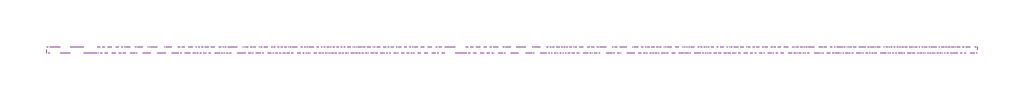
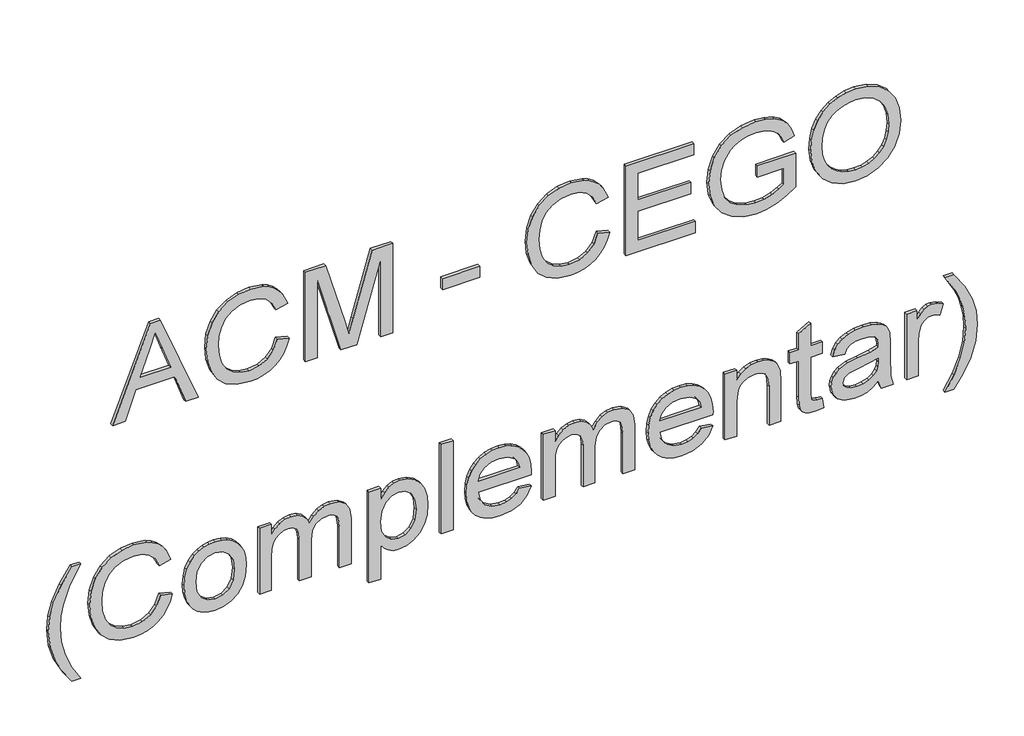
# One storey, part 5 of 12: 1 proxy.
"""IFC4 building model written with IfcOpenShell, lengths in millimetres."""

from ifc_helpers import new_model, si_unit, frame, origin, place, context, project, spatial, polyline, outline, extrude, element, save

model = new_model("IFC4")

# Units and contexts
model_context = context("Model", 3, world=origin())
ifc_project = project(units=[si_unit("LENGTHUNIT", "METRE", prefix="MILLI")], contexts=[model_context])

# Site, building, storey
site = spatial("IfcSite", under=ifc_project)
building = spatial("IfcBuilding", under=site)
storey = spatial("IfcBuildingStorey", under=building, Name="02 - Marelli - Planta Baixa - Painéis Cego", Elevation=12000.0)

# Proxy
placement = place(None, origin())
element("IfcBuildingElementProxy", 1, Name="300mm Arial", ObjectType="300mm Arial", at=placement, inside=storey, context=model_context, shape_type="SweptSolid", body=[
    extrude(outline(polyline([(17965.9244535, 22599.1298393), (17965.9244535, 22638.9346711), (18060.1022443, 22673.3684259), (18060.1022443, 22797.491811), (17965.9244535, 22831.9991422), (17965.9244535, 22871.8039741), (18267.293384, 22751.5065617), (18267.293384, 22719.4272517), (17965.9244535, 22599.1298393)]), holes=[polyline([(18097.7733606, 22687.2007889), (18178.3395176, 22716.7049249), (18229.6222677, 22735.4669067), (18171.8647944, 22756.5833332), (18097.7733606, 22783.7330244), (18097.7733606, 22687.2007889)])]), frame((0.0, 8778.3159498, 0.0), z_axis=(0.0, 1.0, 0.0), x_axis=(0.0, 0.0, 1.0)), (0.0, 0.0, 1.0), 10.0),
    extrude(outline(polyline([(18073.0516905, 23123.9502936), (18040.7884396, 23111.7642025), (18017.5750857, 23091.9813482), (18003.5587816, 23065.7789531), (17998.8866803, 23034.3342395), (18002.3171799, 23007.3592922), (18012.6086787, 22982.3525136), (18029.8347531, 22961.4936045), (18054.0689796, 22946.9622657), (18084.1617268, 22938.4366005), (18118.9633635, 22935.594712), (18147.3822477, 22937.9951421), (18174.9550032, 22945.1964321), (18199.3455795, 22958.3206223), (18218.2179258, 22978.4897527), (18230.3028494, 23005.0692268), (18234.3311572, 23037.4244483), (18230.6983225, 23065.4938445), (18219.7998184, 23088.3393164), (18200.9550632, 23106.1815932), (18173.4834752, 23119.241404), (18182.4597959, 23156.9125203), (18220.278065, 23140.2750571), (18235.6003501, 23128.4729428), (18248.5314022, 23114.3485735), (18258.7999084, 23098.1686635), (18266.1345557, 23080.1999273), (18272.0022735, 23038.8959763), (18267.4681279, 23001.040919), (18253.8656912, 22966.4967996), (18231.526057, 22937.3697427), (18200.7803193, 22915.7658725), (18162.8332915, 22902.3841649), (18118.8897871, 22897.9235957), (18077.2271512, 22901.8691301), (18038.3236302, 22913.7057333), (18005.2326447, 22933.0931145), (17981.0076153, 22959.6909827), (17966.1635768, 22994.3914519), (17961.215564, 23038.0866359), (17962.8503396, 23060.5090435), (17967.7546665, 23081.1288293), (17975.9285445, 23099.9459934), (17987.3719739, 23116.9605357), (18001.9286046, 23131.8367638), (18019.4420868, 23144.2389856), (18039.9124206, 23154.1672009), (18063.3396059, 23161.6214099), (18073.0516905, 23123.9502936)])), frame((0.0, 8778.3159498, 0.0), z_axis=(0.0, 1.0, 0.0), x_axis=(0.0, 0.0, 1.0)), (0.0, 0.0, 1.0), 10.0),
    extrude(outline(polyline([(17965.9244535, 23213.4191948), (17965.9244535, 23251.0903111), (18229.6222677, 23251.0903111), (17965.9244535, 23326.8004257), (17965.9244535, 23377.8624466), (18229.6222677, 23453.5725612), (17965.9244535, 23453.5725612), (17965.9244535, 23491.2436776), (18267.293384, 23491.2436776), (18267.293384, 23426.42287), (18058.5571399, 23365.7959172), (18010.5117514, 23352.3314362), (18054.87832, 23339.8970247), (18267.293384, 23278.2400023), (18267.293384, 23213.4191948), (17965.9244535, 23213.4191948)])), frame((0.0, 8778.3159498, 0.0), z_axis=(0.0, 1.0, 0.0), x_axis=(0.0, 0.0, 1.0)), (0.0, 0.0, 1.0), 10.0),
    extrude(outline(polyline([(23769.0681603, 8778.3159498), (23651.3459219, 8778.3159498), (23651.3459219, 8788.3159498), (23769.0681603, 8788.3159498), (23769.0681603, 8778.3159498)])), frame((0.0, 0.0, 18055.3933548), z_axis=(0.0, 0.0, 1.0), x_axis=(1.0, 0.0, 0.0)), (0.0, 0.0, 1.0), 37.6711163),
    extrude(outline(polyline([(18073.0516905, 24145.7793234), (18040.7884396, 24133.5932323), (18017.5750857, 24113.810378), (18003.5587816, 24087.6079829), (17998.8866803, 24056.1632693), (18002.3171799, 24029.1883221), (18012.6086787, 24004.1815434), (18029.8347531, 23983.3226343), (18054.0689796, 23968.7912955), (18084.1617268, 23960.2656303), (18118.9633635, 23957.4237418), (18147.3822477, 23959.8241719), (18174.9550032, 23967.0254619), (18199.3455795, 23980.1496521), (18218.2179258, 24000.3187825), (18230.3028494, 24026.8982566), (18234.3311572, 24059.2534781), (18230.6983225, 24087.3228743), (18219.7998184, 24110.1683462), (18200.9550632, 24128.010623), (18173.4834752, 24141.0704338), (18182.4597959, 24178.7415501), (18220.278065, 24162.1040869), (18235.6003501, 24150.3019727), (18248.5314022, 24136.1776033), (18258.7999084, 24119.9976933), (18266.1345557, 24102.0289571), (18272.0022735, 24060.7250061), (18267.4681279, 24022.8699488), (18253.8656912, 23988.3258294), (18231.526057, 23959.1987725), (18200.7803193, 23937.5949023), (18162.8332915, 23924.2131947), (18118.8897871, 23919.7526255), (18077.2271512, 23923.6981599), (18038.3236302, 23935.5347631), (18005.2326447, 23954.9221443), (17981.0076153, 23981.5200125), (17966.1635768, 24016.2204817), (17961.215564, 24059.9156657), (17962.8503396, 24082.3380733), (17967.7546665, 24102.9578591), (17975.9285445, 24121.7750232), (17987.3719739, 24138.7895655), (18001.9286046, 24153.6657936), (18019.4420868, 24166.0680154), (18039.9124206, 24175.9962308), (18063.3396059, 24183.4504397), (18073.0516905, 24145.7793234)])), frame((0.0, 8778.3159498, 0.0), z_axis=(0.0, 1.0, 0.0), x_axis=(0.0, 0.0, 1.0)), (0.0, 0.0, 1.0), 10.0),
    extrude(outline(polyline([(17965.9244535, 24235.2482246), (17965.9244535, 24456.5660329), (18003.5955698, 24456.5660329), (18003.5955698, 24272.9193409), (18102.4822501, 24272.9193409), (18102.4822501, 24442.4393643), (18140.1533665, 24442.4393643), (18140.1533665, 24272.9193409), (18229.6222677, 24272.9193409), (18229.6222677, 24451.8571434), (18267.293384, 24451.8571434), (18267.293384, 24235.2482246), (17965.9244535, 24235.2482246)])), frame((0.0, 8778.3159498, 0.0), z_axis=(0.0, 1.0, 0.0), x_axis=(0.0, 0.0, 1.0)), (0.0, 0.0, 1.0), 10.0),
    extrude(outline(polyline([(18083.646692, 24654.3393935), (18083.646692, 24739.0994052), (18029.2001567, 24739.0994052), (18018.55917, 24723.0505532), (18008.5619768, 24700.9500423), (18001.3055044, 24675.5018053), (17998.8866803, 24649.4097748), (18002.0964507, 24619.8596535), (18011.7257619, 24591.9833953), (18027.967752, 24568.1630361), (18051.015559, 24550.7806119), (18080.6576508, 24540.1580193), (18116.6824952, 24536.617155), (18147.4006418, 24539.560211), (18175.83792, 24548.3893789), (18204.8638094, 24567.77676), (18216.8015801, 24582.2161284), (18226.2009651, 24600.591834), (18232.2986092, 24622.8211036), (18234.3311572, 24648.8211636), (18232.445762, 24671.032039), (18226.7895763, 24691.1643812), (18217.9971966, 24708.0501648), (18206.7032194, 24720.5213644), (18191.7212251, 24729.9483406), (18171.8647944, 24737.7014536), (18181.6504555, 24772.429514), (18209.4899255, 24762.8369909), (18231.4984659, 24749.6576185), (18248.494614, 24731.8429328), (18261.2969075, 24708.3444704), (18269.325932, 24680.4406211), (18272.0022735, 24649.4097748), (18267.3853545, 24607.1401335), (18253.5345974, 24570.0944166), (18230.1832877, 24539.6797727), (18197.0647111, 24517.3033503), (18157.581776, 24503.5353666), (18115.1373908, 24498.9460387), (18072.9965082, 24503.5537607), (18035.0126922, 24517.3769267), (18003.3472495, 24540.2407927), (17980.1614867, 24571.9706148), (17965.9520447, 24610.1659629), (17961.215564, 24652.4264071), (17964.1954082, 24684.7724316), (17973.1349406, 24716.3275097), (17987.9789791, 24747.0180651), (18008.6723414, 24776.7705215), (18121.3178083, 24776.7705215), (18121.3178083, 24654.3393935), (18083.646692, 24654.3393935)])), frame((0.0, 8778.3159498, 0.0), z_axis=(0.0, 1.0, 0.0), x_axis=(0.0, 0.0, 1.0)), (0.0, 0.0, 1.0), 10.0),
    extrude(outline(polyline([(18112.6357932, 24823.8594169), (18074.0909572, 24828.1636362), (18037.6246544, 24841.0762943), (18005.9316205, 24862.3398736), (17981.7065911, 24891.6968568), (17966.3383208, 24927.3446221), (17961.215564, 24967.4805478), (17965.8508771, 25005.2896199), (17979.7568166, 25040.4315474), (18002.6758649, 25070.3955359), (18034.3505046, 25092.6707908), (18072.8125672, 25106.4939567), (18116.093884, 25111.1016787), (18158.8049836, 25106.723883), (18196.7336173, 25093.5904957), (18228.3530748, 25072.1061872), (18252.1366458, 25042.6756276), (18267.0358666, 25007.2301974), (18272.0022735, 24967.701277), (18269.3581217, 24937.4107932), (18261.4256662, 24910.0357743), (18248.204907, 24885.5762201), (18229.6958441, 24864.0321308), (18206.5146799, 24846.4565684), (18179.2776166, 24833.9025954), (18147.9846544, 24826.3702115), (18112.6357932, 24823.8594169)]), holes=[polyline([(18112.2679112, 24861.5305332), (18142.8044161, 24863.4941033), (18168.6366299, 24869.3848138), (18189.7645528, 24879.2026645), (18206.1881846, 24892.9476556), (18218.5007351, 24909.4149734), (18227.2954141, 24927.3998044), (18232.5722214, 24946.9021487), (18234.3311572, 24967.9220062), (18230.6799284, 24997.0858514), (18219.726242, 25023.2146701), (18202.1322856, 25044.8737225), (18178.5602467, 25060.628269), (18149.7366924, 25070.2299891), (18116.3881896, 25073.4305624), (18089.8501021, 25071.561262), (18066.5217851, 25065.9533609), (18046.4032385, 25056.6068589), (18029.4944623, 25043.5217562), (18016.1035577, 25027.5395828), (18006.5386258, 25009.5018687), (18000.7996667, 24989.408614), (17998.8866803, 24967.2598186), (18000.7812726, 24945.4835038), (18006.4650494, 24925.6247738), (18015.9380108, 24907.6836287), (18029.2001567, 24891.6600686), (18045.759445, 24878.4783969), (18065.1238335, 24869.062917), (18087.2933223, 24863.4136292), (18112.2679112, 24861.5305332)])]), frame((0.0, 8778.3159498, 0.0), z_axis=(0.0, 1.0, 0.0), x_axis=(0.0, 0.0, 1.0)), (0.0, 0.0, 1.0), 10.0),
    extrude(outline(polyline([(17149.3155348, 22469.4146478), (17149.3155348, 22497.667985), (17197.5540614, 22468.8260366), (17245.8109821, 22448.2246448), (17294.0862969, 22435.8638098), (17342.3800058, 22431.7435314), (17380.2534572, 22434.1163703), (17417.9429677, 22441.2348869), (17475.7740173, 22462.4248898), (17535.4444769, 22497.667985), (17535.4444769, 22469.4146478), (17484.934279, 22434.7233756), (17434.2033518, 22410.4063757), (17389.4137189, 22398.1559053), (17342.600735, 22394.0724151), (17289.2210575, 22399.5354628), (17237.68079, 22415.9246057), (17190.2791949, 22440.2232114), (17149.3155348, 22469.4146478)])), frame((0.0, 8778.3159498, 0.0), z_axis=(0.0, 1.0, 0.0), x_axis=(0.0, 0.0, 1.0)), (0.0, 0.0, 1.0), 10.0),
    extrude(outline(polyline([(17341.2027835, 22751.94802), (17308.9395325, 22739.761929), (17285.7261786, 22719.9790747), (17271.7098746, 22693.7766796), (17267.0377732, 22662.331966), (17270.4682728, 22635.3570187), (17280.7597717, 22610.3502401), (17297.9858461, 22589.491331), (17322.2200725, 22574.9599922), (17352.3128197, 22566.4343269), (17387.1144565, 22563.5924385), (17415.5333406, 22565.9928685), (17443.1060961, 22573.1941586), (17467.4966724, 22586.3183488), (17486.3690188, 22606.4874792), (17498.4539423, 22633.0669533), (17502.4822501, 22665.4221748), (17498.8494154, 22693.491571), (17487.9509113, 22716.3370429), (17469.1061561, 22734.1793197), (17441.6345681, 22747.2391305), (17450.6108888, 22784.9102468), (17488.4291579, 22768.2727836), (17503.751443, 22756.4706693), (17516.6824952, 22742.3463), (17526.9510013, 22726.16639), (17534.2856486, 22708.1976538), (17540.1533665, 22666.8937028), (17535.6192209, 22629.0386455), (17522.0167841, 22594.4945261), (17499.6771499, 22565.3674691), (17468.9314122, 22543.763599), (17430.9843844, 22530.3818914), (17387.0408801, 22525.9213222), (17345.3782441, 22529.8668566), (17306.4747231, 22541.7034598), (17273.3837376, 22561.0908409), (17249.1587083, 22587.6887092), (17234.3146698, 22622.3891784), (17229.3666569, 22666.0843624), (17231.0014325, 22688.50677), (17235.9057594, 22709.1265558), (17244.0796375, 22727.9437199), (17255.5230668, 22744.9582621), (17270.0796975, 22759.8344903), (17287.5931797, 22772.2367121), (17308.0635135, 22782.1649274), (17331.4906988, 22789.6191364), (17341.2027835, 22751.94802)])), frame((0.0, 8778.3159498, 0.0), z_axis=(0.0, 1.0, 0.0), x_axis=(0.0, 0.0, 1.0)), (0.0, 0.0, 1.0), 10.0),
    extrude(outline(polyline([(17344.7344506, 22827.2902527), (17318.4124939, 22828.9986047), (17295.3646869, 22834.1236607), (17275.5910296, 22842.6654208), (17259.0915221, 22854.6238849), (17246.0868936, 22869.350661), (17236.7978732, 22886.1973571), (17231.224461, 22905.1639733), (17229.3666569, 22926.2505094), (17232.7419742, 22952.8391806), (17242.8679261, 22977.2757421), (17259.1007192, 22997.8495427), (17280.7965599, 23012.849931), (17309.767267, 23022.0101927), (17347.8246594, 23025.0636133), (17372.7049786, 23023.3368672), (17394.7388108, 23018.1566288), (17413.9261561, 23009.5228982), (17430.2670145, 22997.4356754), (17443.3199275, 22982.6261259), (17452.6434368, 22965.825415), (17458.2375424, 22947.0335428), (17460.1022443, 22926.2505094), (17458.5709355, 22907.4241483), (17453.9770091, 22890.0877092), (17446.3204651, 22874.2411923), (17435.6013034, 22859.8845974), (17418.830483, 22845.6245716), (17398.095734, 22835.4388389), (17373.3970566, 22829.3273992), (17344.7344506, 22827.2902527)]), holes=[polyline([(17344.808027, 22864.961369), (17378.8830968, 22869.3207706), (17403.1173232, 22882.3989755), (17417.6026768, 22902.0806623), (17422.431128, 22926.2505094), (17417.5842827, 22950.1720361), (17403.0437468, 22969.8445258), (17379.0854319, 22983.0055042), (17345.9852494, 22987.392497), (17311.1468245, 22983.0330953), (17286.535519, 22969.9548904), (17271.9122097, 22950.3099918), (17267.0377732, 22926.2505094), (17271.8846185, 22902.0806623), (17286.4251544, 22882.3989755), (17310.7145631, 22869.3207706), (17344.808027, 22864.961369)])]), frame((0.0, 8778.3159498, 0.0), z_axis=(0.0, 1.0, 0.0), x_axis=(0.0, 0.0, 1.0)), (0.0, 0.0, 1.0), 10.0),
    extrude(outline(polyline([(17234.0755465, 23067.4436191), (17234.0755465, 23105.1147354), (17345.6909438, 23105.1147354), (17371.6082304, 23106.5494752), (17390.6461236, 23110.8536945), (17404.368122, 23118.3584872), (17414.3377241, 23129.3949471), (17420.407777, 23142.7674576), (17422.431128, 23157.2804023), (17419.3961015, 23174.359324), (17410.2910222, 23185.8648334), (17395.0974958, 23192.4039358), (17373.7971282, 23194.5836366), (17234.0755465, 23194.5836366), (17234.0755465, 23232.2547529), (17359.008272, 23232.2547529), (17387.7214617, 23235.94277), (17407.3479662, 23247.006821), (17418.6603375, 23263.6442842), (17422.431128, 23284.0525379), (17420.9596, 23295.6132296), (17416.5450161, 23305.5736346), (17409.7300021, 23313.3175506), (17401.0571841, 23318.2287752), (17369.6032735, 23321.7236542), (17234.0755465, 23321.7236542), (17234.0755465, 23359.3947705), (17385.7900813, 23359.3947705), (17418.7615051, 23355.0813541), (17441.8920855, 23342.1411049), (17455.5497046, 23321.1994223), (17460.1022443, 23292.8817058), (17457.366122, 23273.3563689), (17449.1577549, 23255.7624124), (17435.4771432, 23240.0998365), (17416.3242869, 23226.368641), (17434.7643719, 23218.1648725), (17448.5875379, 23205.6200965), (17457.2235677, 23188.8262834), (17460.1022443, 23167.8754038), (17457.27875, 23148.3224757), (17448.808267, 23131.0136279), (17435.702471, 23116.4455009), (17418.9730372, 23105.1147354), (17455.3933548, 23105.1147354), (17455.3933548, 23067.4436191), (17234.0755465, 23067.4436191)])), frame((0.0, 8778.3159498, 0.0), z_axis=(0.0, 1.0, 0.0), x_axis=(0.0, 0.0, 1.0)), (0.0, 0.0, 1.0), 10.0),
    extrude(outline(polyline([(17149.3155348, 23415.9014449), (17149.3155348, 23453.5725612), (17263.5061061, 23453.5725612), (17249.9956398, 23464.213548), (17239.0419534, 23477.4481027), (17231.785481, 23492.9083436), (17229.3666569, 23510.2263885), (17232.9810975, 23534.6445559), (17243.8244193, 23557.8671069), (17261.4459669, 23577.806311), (17285.3950848, 23592.374438), (17314.2094421, 23601.2863794), (17346.4267078, 23604.2570265), (17376.7217901, 23601.6266702), (17404.4784866, 23593.7356014), (17427.9861461, 23580.6757906), (17445.5341173, 23562.5392082), (17456.4602125, 23540.2639534), (17460.1022443, 23514.7881252), (17457.4994792, 23495.6582615), (17449.6911838, 23479.6186065), (17436.6773583, 23465.8598199), (17418.4580024, 23453.5725612), (17455.3933548, 23453.5725612), (17455.3933548, 23415.9014449), (17149.3155348, 23415.9014449)]), holes=[polyline([(17342.968617, 23453.5725612), (17377.1356573, 23457.9227658), (17402.0872537, 23470.9733796), (17417.3451594, 23489.670982), (17422.431128, 23510.9621525), (17417.6486621, 23532.1705495), (17403.3012642, 23550.1783732), (17379.3521464, 23562.4840259), (17345.7645202, 23566.5859102), (17310.7237602, 23562.3828584), (17286.2412134, 23549.773703), (17271.8386333, 23531.2784357), (17267.0377732, 23509.4170481), (17271.6730864, 23487.9051484), (17285.5790258, 23469.8697336), (17309.1970499, 23457.6468543), (17342.968617, 23453.5725612)])]), frame((0.0, 8778.3159498, 0.0), z_axis=(0.0, 1.0, 0.0), x_axis=(0.0, 0.0, 1.0)), (0.0, 0.0, 1.0), 10.0),
    extrude(outline(polyline([(23684.3081486, 8778.3159498), (23646.6370323, 8778.3159498), (23646.6370323, 8788.3159498), (23684.3081486, 8788.3159498), (23684.3081486, 8778.3159498)])), frame((0.0, 0.0, 17234.0755465), z_axis=(0.0, 0.0, 1.0), x_axis=(1.0, 0.0, 0.0)), (0.0, 0.0, 1.0), 301.3689304),
    extrude(outline(polyline([(17300.0, 23895.7667195), (17285.1191733, 23885.2085062), (17274.9104479, 23871.4865078), (17269.0059419, 23854.6007242), (17267.0377732, 23834.5511555), (17271.2868103, 23807.8889079), (17284.0339214, 23786.0275203), (17304.7640718, 23770.8799791), (17332.9622268, 23764.3592708), (17332.9622268, 23933.658565), (17343.1157698, 23933.8792942), (17369.3687487, 23932.0927672), (17392.5039277, 23926.7331864), (17412.5213067, 23917.8005517), (17429.4208859, 23905.2948631), (17442.8439802, 23889.9748773), (17452.4319047, 23872.5993508), (17458.1846594, 23853.1682837), (17460.1022443, 23831.6816759), (17458.1800609, 23809.4799975), (17452.4135106, 23789.4488228), (17442.8025935, 23771.588152), (17429.3473095, 23755.8979849), (17412.4109422, 23743.1186841), (17392.3567749, 23733.9906121), (17369.1848077, 23728.5137689), (17342.8950406, 23726.6881545), (17317.467497, 23728.4953748), (17295.0427901, 23733.9170357), (17275.62092, 23742.9531372), (17259.2018867, 23755.6036793), (17246.1489737, 23771.3352331), (17236.8254644, 23789.6143697), (17231.2313588, 23810.4410892), (17229.3666569, 23833.8153915), (17233.6892704, 23869.4723538), (17246.6571107, 23898.1579524), (17267.4608375, 23919.3939406), (17295.2911105, 23932.7020718), (17300.0, 23895.7667195)]), holes=[polyline([(17370.6333431, 23764.3592708), (17391.8693312, 23770.5488853), (17408.3412476, 23785.1446035), (17418.9086579, 23806.1414684), (17422.431128, 23831.5345231), (17418.0165441, 23859.1624609), (17404.7727922, 23881.125016), (17390.535759, 23891.1130122), (17370.6333431, 23896.2081778), (17370.6333431, 23764.3592708)])]), frame((0.0, 8778.3159498, 0.0), z_axis=(0.0, 1.0, 0.0), x_axis=(0.0, 0.0, 1.0)), (0.0, 0.0, 1.0), 10.0),
    extrude(outline(polyline([(17234.0755465, 23971.5504105), (17234.0755465, 24009.2215268), (17345.6909438, 24009.2215268), (17371.6082304, 24010.6562665), (17390.6461236, 24014.9604859), (17404.368122, 24022.4652786), (17414.3377241, 24033.5017384), (17420.407777, 24046.874249), (17422.431128, 24061.3871937), (17419.3961015, 24078.4661153), (17410.2910222, 24089.9716247), (17395.0974958, 24096.5107272), (17373.7971282, 24098.690428), (17234.0755465, 24098.690428), (17234.0755465, 24136.3615443), (17359.008272, 24136.3615443), (17387.7214617, 24140.0495613), (17407.3479662, 24151.1136123), (17418.6603375, 24167.7510755), (17422.431128, 24188.1593292), (17420.9596, 24199.7200209), (17416.5450161, 24209.6804259), (17409.7300021, 24217.4243419), (17401.0571841, 24222.3355666), (17369.6032735, 24225.8304455), (17234.0755465, 24225.8304455), (17234.0755465, 24263.5015618), (17385.7900813, 24263.5015618), (17418.7615051, 24259.1881454), (17441.8920855, 24246.2478963), (17455.5497046, 24225.3062137), (17460.1022443, 24196.9884971), (17457.366122, 24177.4631602), (17449.1577549, 24159.8692038), (17435.4771432, 24144.2066278), (17416.3242869, 24130.4754324), (17434.7643719, 24122.2716639), (17448.5875379, 24109.7268878), (17457.2235677, 24092.9330748), (17460.1022443, 24071.9821951), (17457.27875, 24052.4292671), (17448.808267, 24035.1204192), (17435.702471, 24020.5522922), (17418.9730372, 24009.2215268), (17455.3933548, 24009.2215268), (17455.3933548, 23971.5504105), (17234.0755465, 23971.5504105)])), frame((0.0, 8778.3159498, 0.0), z_axis=(0.0, 1.0, 0.0), x_axis=(0.0, 0.0, 1.0)), (0.0, 0.0, 1.0), 10.0),
    extrude(outline(polyline([(17300.0, 24474.9601327), (17285.1191733, 24464.4019194), (17274.9104479, 24450.679921), (17269.0059419, 24433.7941374), (17267.0377732, 24413.7445687), (17271.2868103, 24387.0823211), (17284.0339214, 24365.2209335), (17304.7640718, 24350.0733923), (17332.9622268, 24343.552684), (17332.9622268, 24512.8519782), (17343.1157698, 24513.0727074), (17369.3687487, 24511.2861804), (17392.5039277, 24505.9265996), (17412.5213067, 24496.9939649), (17429.4208859, 24484.4882763), (17442.8439802, 24469.1682905), (17452.4319047, 24451.792764), (17458.1846594, 24432.3616969), (17460.1022443, 24410.8750891), (17458.1800609, 24388.6734107), (17452.4135106, 24368.6422361), (17442.8025935, 24350.7815652), (17429.3473095, 24335.0913981), (17412.4109422, 24322.3120973), (17392.3567749, 24313.1840253), (17369.1848077, 24307.7071821), (17342.8950406, 24305.8815677), (17317.467497, 24307.688788), (17295.0427901, 24313.1104489), (17275.62092, 24322.1465504), (17259.2018867, 24334.7970925), (17246.1489737, 24350.5286463), (17236.8254644, 24368.8077829), (17231.2313588, 24389.6345024), (17229.3666569, 24413.0088047), (17233.6892704, 24448.6657671), (17246.6571107, 24477.3513656), (17267.4608375, 24498.5873538), (17295.2911105, 24511.895485), (17300.0, 24474.9601327)]), holes=[polyline([(17370.6333431, 24343.552684), (17391.8693312, 24349.7422985), (17408.3412476, 24364.3380167), (17418.9086579, 24385.3348816), (17422.431128, 24410.7279363), (17418.0165441, 24438.3558741), (17404.7727922, 24460.3184292), (17390.535759, 24470.3064254), (17370.6333431, 24475.4015911), (17370.6333431, 24343.552684)])]), frame((0.0, 8778.3159498, 0.0), z_axis=(0.0, 1.0, 0.0), x_axis=(0.0, 0.0, 1.0)), (0.0, 0.0, 1.0), 10.0),
    extrude(outline(polyline([(17234.0755465, 24550.7438237), (17234.0755465, 24588.41494), (17351.5034793, 24588.41494), (17386.2131456, 24592.7099623), (17398.5877762, 24598.0787401), (17407.6422718, 24605.5950291), (17418.7339139, 24624.4029961), (17422.431128, 24646.4667188), (17420.7848561, 24660.3634612), (17415.8460403, 24672.3288231), (17408.1481095, 24681.6638287), (17398.2244927, 24687.6695023), (17364.8943839, 24692.0105098), (17234.0755465, 24692.0105098), (17234.0755465, 24729.6816261), (17369.9711555, 24729.6816261), (17406.391473, 24727.6950633), (17434.0929872, 24716.4010861), (17444.6328064, 24706.3027253), (17452.9285454, 24692.1208744), (17458.3088196, 24675.1155292), (17460.1022443, 24656.5466855), (17457.8765582, 24635.5682147), (17451.1995, 24617.2201002), (17440.0710697, 24601.5023419), (17424.4912672, 24588.41494), (17455.3933548, 24588.41494), (17455.3933548, 24550.7438237), (17234.0755465, 24550.7438237)])), frame((0.0, 8778.3159498, 0.0), z_axis=(0.0, 1.0, 0.0), x_axis=(0.0, 0.0, 1.0)), (0.0, 0.0, 1.0), 10.0),
    extrude(outline(polyline([(17265.4926689, 24861.5305332), (17267.0377732, 24845.1229962), (17269.576159, 24832.2839146), (17276.4555523, 24825.8459797), (17295.8797217, 24823.8594169), (17417.7222385, 24823.8594169), (17417.7222385, 24861.5305332), (17455.3933548, 24861.5305332), (17455.3933548, 24823.8594169), (17531.3241986, 24823.8594169), (17509.1777025, 24786.1883006), (17455.3933548, 24786.1883006), (17455.3933548, 24757.9349633), (17417.7222385, 24757.9349633), (17417.7222385, 24786.1883006), (17294.7760757, 24786.1883006), (17267.7919313, 24787.3287348), (17252.0281878, 24790.7500373), (17242.849532, 24796.967243), (17235.6206508, 24806.4953867), (17230.9301554, 24819.9782618), (17229.3666569, 24838.0596619), (17232.9719005, 24866.2394227), (17265.4926689, 24861.5305332)])), frame((0.0, 8778.3159498, 0.0), z_axis=(0.0, 1.0, 0.0), x_axis=(0.0, 0.0, 1.0)), (0.0, 0.0, 1.0), 10.0),
    extrude(outline(polyline([(17262.3288837, 25040.4683356), (17234.0755465, 25049.8861147), (17234.0755465, 25087.557231), (17265.7501862, 25080.0524383), (17331.1963932, 25078.1394519), (17378.0645594, 25078.1394519), (17411.0267861, 25076.300042), (17425.1442577, 25071.7566993), (17436.5945848, 25064.7485473), (17445.856014, 25054.181137), (17453.406792, 25038.9600195), (17458.4283812, 25018.772495), (17460.1022443, 24993.3058639), (17458.207652, 24966.7539809), (17452.5238752, 24943.6050063), (17443.3452194, 24924.6774777), (17430.9659903, 24910.7899323), (17414.7791825, 24901.0318624), (17394.1777908, 24894.49276), (17389.4689012, 24932.1638763), (17405.1314772, 24939.6502749), (17415.1838527, 24950.3372468), (17420.6193092, 24966.0090198), (17422.431128, 24988.4498215), (17419.7088012, 25012.693245), (17411.5418209, 25030.0940634), (17400.5421493, 25037.8747676), (17383.7299421, 25040.4683356), (17375.3422326, 25040.2476064), (17368.3524747, 25013.429009), (17362.3927864, 24974.9117641), (17356.7274037, 24942.3174193), (17344.3665686, 24915.9402803), (17334.8752131, 24905.3360818), (17322.7351073, 24896.9943575), (17308.5532564, 24891.5864922), (17292.9366657, 24889.7838704), (17267.6079903, 24894.5571393), (17247.2457219, 24908.876946), (17233.8364232, 24932.0994969), (17229.3666569, 24963.5809987), (17231.224461, 24984.4491048), (17236.7978732, 25003.9376535), (17246.896234, 25022.469709), (17262.3288837, 25040.4683356)]), holes=[polyline([(17337.6711163, 25040.4683356), (17327.0025384, 25040.2476064), (17310.0799667, 25038.7576844), (17297.8662844, 25034.2879181), (17286.0112871, 25024.2079515), (17276.0508821, 25009.7134008), (17269.2910505, 24991.8343359), (17267.0377732, 24971.6008261), (17269.0795183, 24952.5169476), (17275.2047535, 24938.6753876), (17284.3834093, 24930.2600869), (17295.5854161, 24927.4549867), (17310.0799667, 24932.6053347), (17320.0127805, 24947.2838263), (17326.1196217, 24979.69423), (17337.6711163, 25040.4683356)])]), frame((0.0, 8778.3159498, 0.0), z_axis=(0.0, 1.0, 0.0), x_axis=(0.0, 0.0, 1.0)), (0.0, 0.0, 1.0), 10.0),
    extrude(outline(polyline([(17234.0755465, 25129.9372369), (17234.0755465, 25167.6083532), (17350.3998333, 25167.6083532), (17373.3556698, 25169.1350635), (17394.39852, 25173.7151943), (17406.1339556, 25179.1690449), (17414.9999117, 25187.2900399), (17420.5733239, 25197.3424154), (17422.431128, 25208.5904074), (17420.4997475, 25221.8341593), (17414.7056061, 25235.0779111), (17448.4771733, 25247.6594753), (17457.1959765, 25228.603188), (17460.1022443, 25209.8412062), (17458.2812284, 25197.5539476), (17452.8181808, 25186.2967585), (17441.6345681, 25175.0763577), (17422.6518572, 25162.8994636), (17455.3933548, 25162.8994636), (17455.3933548, 25129.9372369), (17234.0755465, 25129.9372369)])), frame((0.0, 8778.3159498, 0.0), z_axis=(0.0, 1.0, 0.0), x_axis=(0.0, 0.0, 1.0)), (0.0, 0.0, 1.0), 10.0),
    extrude(outline(polyline([(17149.3155348, 25280.6217021), (17190.2791949, 25309.6751827), (17237.68079, 25334.0013796), (17289.2210575, 25350.4732959), (17342.600735, 25355.9639347), (17389.4137189, 25351.8804446), (17434.2033518, 25339.6299741), (17484.934279, 25315.3129742), (17535.4444769, 25280.6217021), (17535.4444769, 25252.3683649), (17475.1854061, 25287.8321892), (17446.8400984, 25299.8067481), (17417.2807801, 25308.8014629), (17379.9775458, 25315.9199795), (17342.3800058, 25318.2928184), (17294.0862969, 25314.1725401), (17245.8109821, 25301.811705), (17197.5540614, 25281.2103133), (17149.3155348, 25252.3683649), (17149.3155348, 25280.6217021)])), frame((0.0, 8778.3159498, 0.0), z_axis=(0.0, 1.0, 0.0), x_axis=(0.0, 0.0, 1.0)), (0.0, 0.0, 1.0), 10.0),
])

save(model, "model.ifc")
